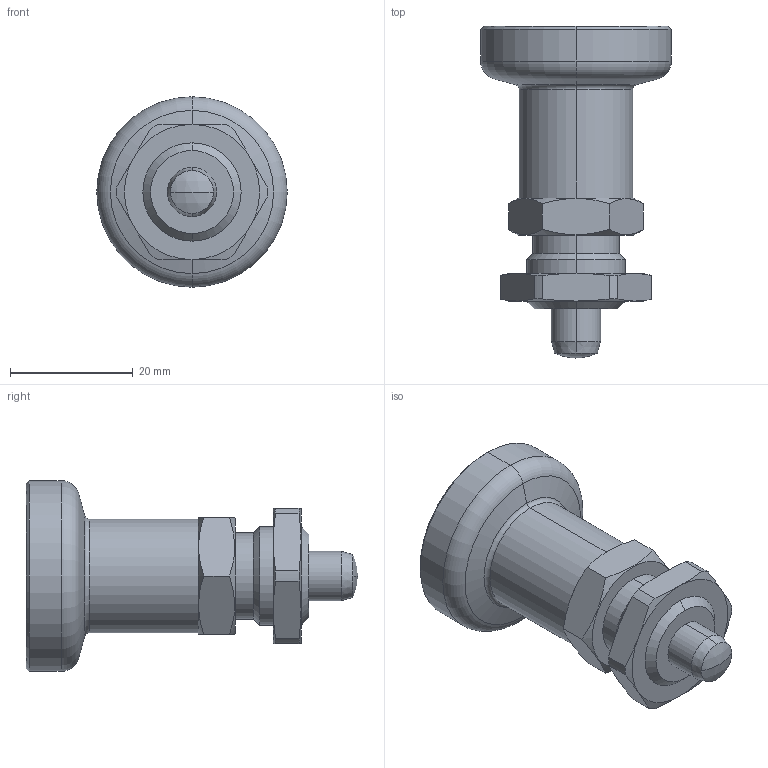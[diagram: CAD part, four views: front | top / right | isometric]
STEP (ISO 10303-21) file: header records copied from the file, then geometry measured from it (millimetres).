
FILE_DESCRIPTION (( 'STEP AP214' ), '1' );
FILE_NAME ('607.1-8-AK-NI.step', '2025-04-10T06:30:43', ( '' ), ( '' ), 'SwSTEP 2.0', 'SolidWorks 2022', '' );
FILE_SCHEMA (( 'AUTOMOTIVE_DESIGN' ));
Length unit declared in the file: millimetre
Products named in the file (4): 607.1-8-AK-NI; WB909_Mutter, NI^WB607.1_M16x1,5; WB607.1_Bedienungsknopf^WB607.1_9.2-8-(NI); WB607.1_Führung_NI^WB607.1_1.1-8
Assembly tree (3 placements, depth 2):
  607.1-8-AK-NI
    WB607.1_Führung_NI^WB607.1_1.1-8
    WB607.1_Bedienungsknopf^WB607.1_9.2-8-(NI)
    WB909_Mutter, NI^WB607.1_M16x1,5
Bounding box: 31 x 54 x 31 mm (x, y, z)
Volume: 15574.1 mm3; surface area: 9562.7 mm2
Topology: 3 solids, 3 shells, 110 faces, 257 edges, 162 vertices
Faces by surface type: plane 39, cylinder 37, cone 26, torus 4, sphere 4
Entity records: 3616 total; most frequent: CARTESIAN_POINT 743, DIRECTION 573, ORIENTED_EDGE 514, EDGE_CURVE 257, AXIS2_PLACEMENT_3D 240, VERTEX_POINT 162, CIRCLE 124, EDGE_LOOP 123
